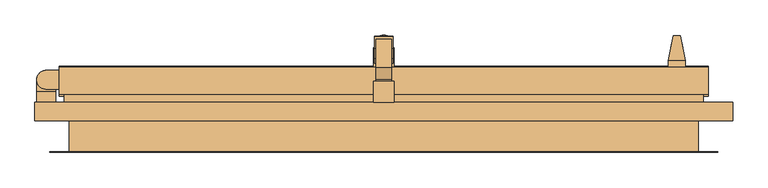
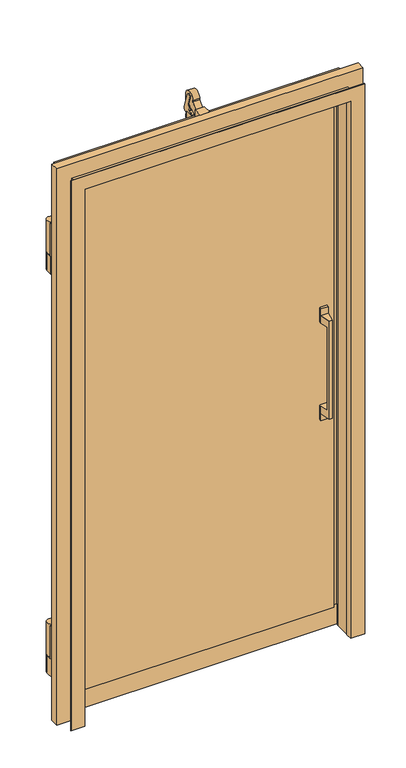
"""IFC4 building model written with IfcOpenShell, lengths in millimetres: door geometry, 冷蔵_シリウス片開き扉3方_クローザー付 : W870xH1855xt50."""

from ifc_helpers import new_model, si_unit, point, frame, frame_2d, origin, origin_with_axes, origin_2d, place, context, project, spatial, polyline, circle_curve, trimmed, segment, composite_curve, outline, extrude, faceted_brep, source, transform, mapped, element, save
from ifc_brep_helpers import plane_surface, cylinder_surface, advanced_brep


def door_fa35789d(model_context):
    return source(origin(), model_context, "Body", "SolidModel", [
        extrude(outline(composite_curve([segment(polyline([(125.7575082, 1944.1707894), (143.1391829, 1892.2691434)]), True, "CONTINUOUS"), segment(trimmed(circle_curve(frame_2d((133.6568058, 1889.0935294)), 10.0), [point((143.1391829, 1892.2691434))], [point((138.038682, 1880.104694))], False, "CARTESIAN"), True, "CONTINUOUS"), segment(polyline([(138.038682, 1880.104694), (126.99992, 1874.72352), (126.99992, 1885.0), (104.4778735, 1885.0), (119.44367, 1892.17143), (114.24514, 1907.69423), (121.32271, 1913.32711), (112.4852998, 1939.7156242)]), True, "CONTINUOUS"), segment(trimmed(circle_curve(frame_2d((119.1198418, 1941.9478606)), 7.0000019), [point((112.4852998, 1939.7156242))], [point((125.7575082, 1944.1707894))], False, "CARTESIAN"), True, "CONTINUOUS")], self_intersect=False)), frame((-13.25, 0.0, 0.0), z_axis=(1.0, 0.0, 0.0), x_axis=(0.0, 1.0, 0.0)), (0.0, 0.0, 1.0), 26.55),
        extrude(outline(composite_curve([segment(polyline([(81.00191, 1914.03364), (99.0, 1933.2594997), (99.0, 1937.9563633)]), True, "CONTINUOUS"), segment(trimmed(circle_curve(frame_2d((119.0008804, 1937.9563633)), 20.0008804), [point((99.0, 1937.9563633))], [point((139.0017607, 1937.9563633))], False, "CARTESIAN"), True, "CONTINUOUS"), segment(polyline([(139.0017607, 1937.9563633), (139.0017607, 1904.84567), (101.73254, 1904.84567), (80.3436039, 1887.49977), (79.00188, 1887.49977), (79.00188, 1914.03364), (81.00191, 1914.03364)]), True, "CONTINUOUS")], self_intersect=False)), frame((-11.0002, 0.0, 0.0), z_axis=(1.0, 0.0, 0.0), x_axis=(0.0, 1.0, 0.0)), (0.0, 0.0, 1.0), 22.0002),
        extrude(outline(polyline([(15.0, 79.00188), (15.0, 49.0), (-15.0, 49.0), (-15.0, 79.00188), (15.0, 79.00188)])), frame((0.0, 0.0, 1887.49977), z_axis=(0.0, 0.0, 1.0), x_axis=(1.0, 0.0, 0.0)), (0.0, 0.0, 1.0), 32.50023),
        extrude(outline(composite_curve([segment(trimmed(circle_curve(frame_2d((-484.00039, 80.99586)), 13.5), [point((-484.6329474, 67.5106877))], [point((-484.3537825, 94.4912338))], False, "CARTESIAN"), True, "CONTINUOUS"), segment(polyline([(-484.3537825, 94.4912338), (-465.0, 94.4912338), (-465.0, 67.5106877), (-484.6329474, 67.5106877)]), True, "CONTINUOUS")], self_intersect=False)), frame((0.0, 0.0, 1593.0), z_axis=(0.0, 0.0, 1.0), x_axis=(1.0, 0.0, 0.0)), (0.0, 0.0, 1.0), 113.0),
        advanced_brep(
        [(-470.4957639, 63.49586, 1593.0), (-470.4957639, 80.99586, 1593.0), (-497.4957639, 81.3492474, 1593.0), (-497.4957639, 63.49586, 1593.0), (-470.4957639, 63.49586, 1533.0), (-497.4957639, 63.49586, 1533.0), (-497.4957639, 81.3492474, 1533.0), (-470.50039, 80.99586, 1533.0)],
        [
            (0, 1),
            (1, 2, circle_curve(frame((-484.00039, 80.99586, 1593.0), z_axis=(0.0, 0.0, 1.0), x_axis=(1.0, 0.0, 0.0)), 13.5)),
            (2, 3),
            (3, 0),
            (4, 5),
            (5, 6),
            (6, 7, circle_curve(frame((-484.00039, 80.99586, 1533.0), z_axis=(0.0, 0.0, -1.0), x_axis=(1.0, 0.0, 0.0)), 13.5)),
            (7, 4),
            (0, 4),
            (7, 1),
            (2, 6),
            (5, 3),
        ],
        [
            plane_surface(frame((-470.4957639, 80.99586, 1593.0), z_axis=(0.0, 0.0, 1.0), x_axis=(0.0, 1.0, 0.0))),
            plane_surface(frame((-470.4957639, 80.99586, 1533.0), z_axis=(0.0, 0.0, -1.0), x_axis=(0.0, -1.0, 0.0))),
            plane_surface(frame((-470.4957639, 63.49586, 1593.0), z_axis=(1.0, 0.0, 0.0), x_axis=(0.0, 0.0, -1.0))),
            plane_surface(frame((-497.4957639, 81.3492474, 1593.0), z_axis=(-1.0, 0.0, 0.0), x_axis=(0.0, 0.0, -1.0))),
            plane_surface(frame((-497.4957639, 63.49586, 1593.0), z_axis=(0.0, -1.0, 0.0), x_axis=(0.0, 0.0, -1.0))),
            cylinder_surface(frame((-484.00039, 80.99586, 1533.0), z_axis=(0.0, 0.0, 1.0), x_axis=(1.0, 0.0, 0.0)), 13.5),
        ],
        [
            (0, [[1, 2, 3, 4]]),
            (1, [[5, 6, 7, 8]]),
            (2, [[-1, 9, -8, 10]]),
            (3, [[-3, 11, -6, 12]]),
            (4, [[-4, -12, -5, -9]]),
            (5, [[-2, -10, -7, -11]]),
        ],
    ),
        extrude(outline(polyline([(-470.4957639, 49.00058), (-497.4957639, 49.00058), (-497.4957639, 63.49586), (-470.4957639, 63.49586), (-470.4957639, 49.00058)])), frame((0.0, 0.0, 1533.0), z_axis=(0.0, 0.0, 1.0), x_axis=(1.0, 0.0, 0.0)), (0.0, 0.0, 1.0), 173.0),
        extrude(outline(composite_curve([segment(trimmed(circle_curve(frame_2d((-484.00039, 80.99586)), 13.5), [point((-484.6329474, 67.5106877))], [point((-484.3537825, 94.4912338))], False, "CARTESIAN"), True, "CONTINUOUS"), segment(polyline([(-484.3537825, 94.4912338), (-465.0, 94.4912338), (-465.0, 67.5106877), (-484.6329474, 67.5106877)]), True, "CONTINUOUS")], self_intersect=False)), frame((0.0, 0.0, 204.0), z_axis=(0.0, 0.0, 1.0), x_axis=(1.0, 0.0, 0.0)), (0.0, 0.0, 1.0), 113.0),
        advanced_brep(
        [(-470.4957639, 49.00058, 317.0), (-470.4957639, 63.49586, 317.0), (-497.4957639, 63.49586, 317.0), (-497.4957639, 49.00058, 317.0), (-470.4957639, 49.00058, 144.0), (-497.4957639, 49.00058, 144.0), (-497.4957639, 81.3492474, 144.0), (-470.50039, 80.99586, 144.0), (-470.4957639, 80.99586, 204.0), (-470.4957639, 63.49586, 204.0), (-497.4957639, 63.49586, 204.0), (-497.4957639, 81.3492474, 204.0)],
        [
            (0, 1),
            (1, 2),
            (2, 3),
            (3, 0),
            (4, 5),
            (5, 6),
            (6, 7, circle_curve(frame((-484.00039, 80.99586, 144.0), z_axis=(0.0, 0.0, -1.0), x_axis=(1.0, 0.0, 0.0)), 13.5)),
            (7, 4),
            (0, 4),
            (7, 8),
            (8, 9),
            (9, 1),
            (9, 10),
            (10, 2),
            (10, 11),
            (11, 6),
            (5, 3),
            (8, 11, circle_curve(frame((-484.00039, 80.99586, 204.0), z_axis=(0.0, 0.0, 1.0), x_axis=(1.0, 0.0, 0.0)), 13.5)),
        ],
        [
            plane_surface(frame((-470.4957639, 63.49586, 317.0), z_axis=(0.0, 0.0, 1.0), x_axis=(0.0, 1.0, 0.0))),
            plane_surface(frame((-470.4957639, 63.49586, 144.0), z_axis=(0.0, 0.0, -1.0), x_axis=(0.0, -1.0, 0.0))),
            plane_surface(frame((-470.4957639, 49.00058, 317.0), z_axis=(1.0, 0.0, 0.0), x_axis=(0.0, 0.0, -1.0))),
            plane_surface(frame((-470.4957639, 63.49586, 317.0), z_axis=(0.0, 1.0, 0.0), x_axis=(0.0, 0.0, -1.0))),
            plane_surface(frame((-497.4957639, 63.49586, 317.0), z_axis=(-1.0, 0.0, 0.0), x_axis=(0.0, 0.0, -1.0))),
            plane_surface(frame((-497.4957639, 49.00058, 317.0), z_axis=(0.0, -1.0, 0.0), x_axis=(0.0, 0.0, -1.0))),
            plane_surface(frame((-470.4957639, 80.99586, 204.0), z_axis=(0.0, 0.0, 1.0), x_axis=(0.0, 1.0, 0.0))),
            cylinder_surface(frame((-484.00039, 80.99586, 144.0), z_axis=(0.0, 0.0, 1.0), x_axis=(1.0, 0.0, 0.0)), 13.5),
        ],
        [
            (0, [[1, 2, 3, 4]]),
            (1, [[5, 6, 7, 8]]),
            (2, [[-1, 9, -8, 10, 11, 12]]),
            (3, [[-2, -12, 13, 14]]),
            (4, [[-3, -14, 15, 16, -6, 17]]),
            (5, [[-4, -17, -5, -9]]),
            (6, [[-11, 18, -15, -13]]),
            (7, [[-18, -10, -7, -16]]),
        ],
    ),
        faceted_brep([(-435.0, -22.0, 0.0), (-451.00103, -22.0, 0.0), (-451.00103, 22.0, 0.0), (-500.0, 22.0, 0.0), (-500.0, 49.0, 0.0), (-435.0, 49.0, 0.0), (-435.0, -22.0, 1855.0), (435.0, -22.0, 1855.0), (435.0, -22.0, 0.0), (451.00103, -22.0, 0.0), (451.00103, -22.0, 1871.00103), (-451.00103, -22.0, 1871.00103), (-451.00103, 22.0, 1871.00103), (451.00103, 22.0, 1871.00103), (451.00103, 22.0, 0.0), (500.0, 22.0, 0.0), (500.0, 22.0, 1920.0), (-500.0, 22.0, 1920.0), (-500.0, 49.0, 1920.0), (500.0, 49.0, 1920.0), (500.0, 49.0, 0.0), (435.0, 49.0, 0.0), (435.0, 49.0, 1855.0), (-435.0, 49.0, 1855.0)], [[[0, 1, 2, 3, 4, 5]], [[1, 0, 6, 7, 8, 9, 10, 11]], [[2, 1, 11, 12]], [[3, 2, 12, 13, 14, 15, 16, 17]], [[4, 3, 17, 18]], [[5, 4, 18, 19, 20, 21, 22, 23]], [[0, 5, 23, 6]], [[7, 22, 21, 8]], [[8, 21, 20, 15, 14, 9]], [[13, 10, 9, 14]], [[19, 16, 15, 20]], [[12, 11, 10, 13]], [[18, 17, 16, 19]], [[6, 23, 22, 7]]]),
        faceted_brep([(-433.8, -1.2, 0.0), (-433.8, -23.2, 0.0), (-479.0, -23.2, 0.0), (-479.0, -22.0, 0.0), (-435.0, -22.0, 0.0), (-435.0, -1.2, 0.0), (-433.8, -1.2, 1853.8), (-433.8, -23.2, 1853.8), (433.8, -23.2, 1853.8), (433.8, -23.2, 0.0), (479.0, -23.2, 0.0), (479.0, -23.2, 1899.0), (-479.0, -23.2, 1899.0), (-479.0, -22.0, 1899.0), (479.0, -22.0, 1899.0), (479.0, -22.0, 0.0), (435.0, -22.0, 0.0), (435.0, -22.0, 1855.0), (-435.0, -22.0, 1855.0), (-435.0, -1.2, 1855.0), (435.0, -1.2, 1855.0), (435.0, -1.2, 0.0), (433.8, -1.2, 0.0), (433.8, -1.2, 1853.8)], [[[0, 1, 2, 3, 4, 5]], [[1, 0, 6, 7]], [[2, 1, 7, 8, 9, 10, 11, 12]], [[3, 2, 12, 13]], [[4, 3, 13, 14, 15, 16, 17, 18]], [[5, 4, 18, 19]], [[0, 5, 19, 20, 21, 22, 23, 6]], [[8, 23, 22, 9]], [[22, 21, 16, 15, 10, 9]], [[14, 11, 10, 15]], [[20, 17, 16, 21]], [[7, 6, 23, 8]], [[13, 12, 11, 14]], [[19, 18, 17, 20]]]),
        faceted_brep([(-465.0, 60.0, 1885.0), (-465.0, 60.0, 25.0), (465.0, 60.0, 25.0), (465.0, 60.0, 1885.0), (-421.0, 60.0, 69.0), (-421.0, 60.0, 1841.0), (421.0, 60.0, 1841.0), (421.0, 60.0, 69.0), (-465.0, 99.0, 1885.0), (-465.0, 99.0, 25.0), (465.0, 99.0, 25.0), (465.0, 99.0, 1885.0), (-421.0, 49.0, 69.0), (-421.0, 49.0, 1841.0), (421.0, 49.0, 1841.0), (421.0, 49.0, 69.0)], [[[0, 1, 2, 3], [4, 5, 6, 7]], [[1, 0, 8, 9]], [[2, 1, 9, 10]], [[3, 2, 10, 11]], [[12, 13, 5, 4]], [[14, 15, 7, 6]], [[15, 12, 4, 7]], [[8, 11, 10, 9]], [[13, 12, 15, 14]], [[0, 3, 11, 8]], [[13, 14, 6, 5]]]),
        extrude(outline(polyline([(-465.0, 101.0), (465.0, 101.0), (465.0, 99.0), (-465.0, 99.0), (-465.0, 101.0)])), origin_with_axes(), (0.0, 0.0, 1.0), 69.0),
        extrude(outline(polyline([(465.0, 58.0), (-465.0, 58.0), (-465.0, 60.0), (465.0, 60.0), (465.0, 58.0)])), origin_with_axes(), (0.0, 0.0, 1.0), 69.0),
        extrude(outline(composite_curve([segment(trimmed(circle_curve(origin_2d(), 3.3), [point((0.0, 3.3))], [point((0.0, -3.3))], False, "CARTESIAN"), True, "CONTINUOUS"), segment(trimmed(circle_curve(origin_2d(), 3.3), [point((0.0, -3.3))], [point((0.0, 3.3))], False, "CARTESIAN"), True, "CONTINUOUS")], self_intersect=False)), frame((0.0, 132.3677798, 1867.7778233), z_axis=(0.0, 0.1542464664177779, 0.9880324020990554), x_axis=(1.0, 0.0, 0.0)), (0.0, 0.0, 1.0), 17.4307812),
        extrude(outline(composite_curve([segment(trimmed(circle_curve(origin_2d(), 13.0), [point((0.0, 13.0000001))], [point((0.0, -13.0))], False, "CARTESIAN"), True, "CONTINUOUS"), segment(trimmed(circle_curve(origin_2d(), 13.0), [point((0.0, -13.0))], [point((0.0, 13.0000001))], False, "CARTESIAN"), True, "CONTINUOUS")], self_intersect=False)), frame((0.0, 119.1948076, 1783.3977812), z_axis=(0.0, 0.15424646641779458, 0.9880324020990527), x_axis=(1.0, 0.0, 0.0)), (0.0, 0.0, 1.0), 85.4021002),
        extrude(outline(polyline([(15.0, 126.99992), (15.0, 99.0), (-15.0, 99.0), (-15.0, 126.99992), (15.0, 126.99992)])), frame((0.0, 0.0, 1778.99998), z_axis=(0.0, 0.0, 1.0), x_axis=(1.0, 0.0, 0.0)), (0.0, 0.0, 1.0), 106.00002),
        faceted_brep([(391.9448833, 14.0, 783.6), (391.9448833, 14.0, 1071.38815), (397.00063, 40.0021943, 1071.38815), (397.00063, 40.0021943, 1097.0093), (390.0005294, 4.0, 1097.0093), (390.0005294, 4.0, 758.0), (397.00063, 40.0021943, 758.0), (397.00063, 40.0021943, 783.6), (379.9994306, 4.0, 1097.0093), (379.9994306, 4.0, 758.0), (378.0550767, 14.0, 1071.38815), (378.0550767, 14.0, 783.6), (372.99933, 40.0021943, 783.6), (372.99933, 40.0021943, 758.0), (372.99933, 40.0021943, 1097.0093), (372.99933, 40.0021943, 1071.38815), (372.99933, 49.0, 1071.38815), (397.00063, 49.0, 1071.38815), (372.99933, 40.0021943, 1120.01065), (372.99933, 49.0, 1120.01065), (397.00063, 49.0, 1120.01065), (397.00063, 40.0021943, 1120.01065), (397.00063, 49.0, 783.6), (372.99933, 49.0, 783.6), (372.99933, 49.0, 735.0), (372.99933, 40.0021943, 735.0), (397.00063, 49.0, 735.0), (397.00063, 40.0021943, 735.0)], [[[0, 1, 2, 3, 4, 5, 6, 7]], [[4, 8, 9, 5]], [[10, 11, 12, 13, 9, 8, 14, 15]], [[1, 0, 11, 10]], [[14, 8, 4, 3]], [[15, 16, 17, 2, 1, 10]], [[16, 15, 14, 18, 19]], [[17, 16, 19, 20]], [[2, 17, 20, 21, 3]], [[19, 18, 21, 20]], [[21, 18, 14, 3]], [[6, 5, 9, 13]], [[7, 22, 23, 12, 11, 0]], [[12, 23, 24, 25, 13]], [[24, 23, 22, 26]], [[26, 22, 7, 6, 27]], [[24, 26, 27, 25]], [[25, 27, 6, 13]]]),
        faceted_brep([(407.99933, 99.0, 735.0), (407.99933, 107.9978057, 735.0), (432.00063, 107.9978057, 735.0), (432.00063, 99.0, 735.0), (407.99933, 99.0, 783.6), (407.99933, 107.9978057, 783.6), (407.99933, 107.9978057, 758.0), (432.00063, 99.0, 783.6), (432.00063, 107.9978057, 758.0), (432.00063, 107.9978057, 783.6), (414.9994306, 144.0, 758.0), (425.0005294, 144.0, 758.0), (426.9448833, 134.0, 783.6), (413.0550767, 134.0, 783.6), (425.0005294, 144.0, 1097.0093), (432.00063, 107.9978057, 1097.0093), (432.00063, 107.9978057, 1071.38815), (426.9448833, 134.0, 1071.38815), (414.9994306, 144.0, 1097.0093), (413.0550767, 134.0, 1071.38815), (407.99933, 107.9978057, 1071.38815), (407.99933, 107.9978057, 1097.0093), (432.00063, 99.0, 1071.38815), (407.99933, 99.0, 1071.38815), (407.99933, 99.0, 1120.01065), (407.99933, 107.9978057, 1120.01065), (432.00063, 99.0, 1120.01065), (432.00063, 107.9978057, 1120.01065)], [[[0, 1, 2, 3]], [[1, 0, 4, 5, 6]], [[0, 3, 7, 4]], [[3, 2, 8, 9, 7]], [[2, 1, 6, 8]], [[6, 10, 11, 8]], [[5, 4, 7, 9, 12, 13]], [[8, 11, 14, 15, 16, 17, 12, 9]], [[14, 11, 10, 18]], [[18, 10, 6, 5, 13, 19, 20, 21]], [[15, 14, 18, 21]], [[16, 22, 23, 20, 19, 17]], [[20, 23, 24, 25, 21]], [[23, 22, 26, 24]], [[22, 16, 15, 27, 26]], [[24, 26, 27, 25]], [[25, 27, 15, 21]], [[12, 17, 19, 13]]]),
        extrude(outline(polyline([(-458.0, 49.0), (-458.0, 60.0), (-435.0, 60.0), (-435.0, 49.0), (-458.0, 49.0)])), origin_with_axes(), (0.0, 0.0, 1.0), 1855.0),
        extrude(outline(polyline([(458.0, 49.0), (435.0, 49.0), (435.0, 60.0), (458.0, 60.0), (458.0, 49.0)])), origin_with_axes(), (0.0, 0.0, 1.0), 1855.0),
        extrude(outline(polyline([(-458.0, 49.0), (-458.0, 60.0), (458.0, 60.0), (458.0, 49.0), (-458.0, 49.0)])), frame((0.0, 0.0, 1855.0), z_axis=(0.0, 0.0, 1.0), x_axis=(1.0, 0.0, 0.0)), (0.0, 0.0, 1.0), 23.0),
    ])


if __name__ == "__main__":
    model = new_model("IFC4")
    model_context = context("Model", 3, world=origin())
    ifc_project = project(units=[si_unit("LENGTHUNIT", "METRE", prefix="MILLI")], contexts=[model_context])
    site = spatial("IfcSite", under=ifc_project)
    building = spatial("IfcBuilding", under=site)
    placement = place(None, origin())
    door_shape = door_fa35789d(model_context)
    element("IfcDoor", 1, ObjectType="冷蔵_シリウス片開き扉3方_クローザー付 : W870xH1855xt50", at=placement, inside=building, context=model_context, shape_type="MappedRepresentation", body=[
        mapped(door_shape, transform((0.0, 0.0, 0.0), x_axis=(1.0, 0.0, 0.0), y_axis=(0.0, 1.0, 0.0), z_axis=(0.0, 0.0, 1.0))),
    ])
    save(model, "model.ifc")
